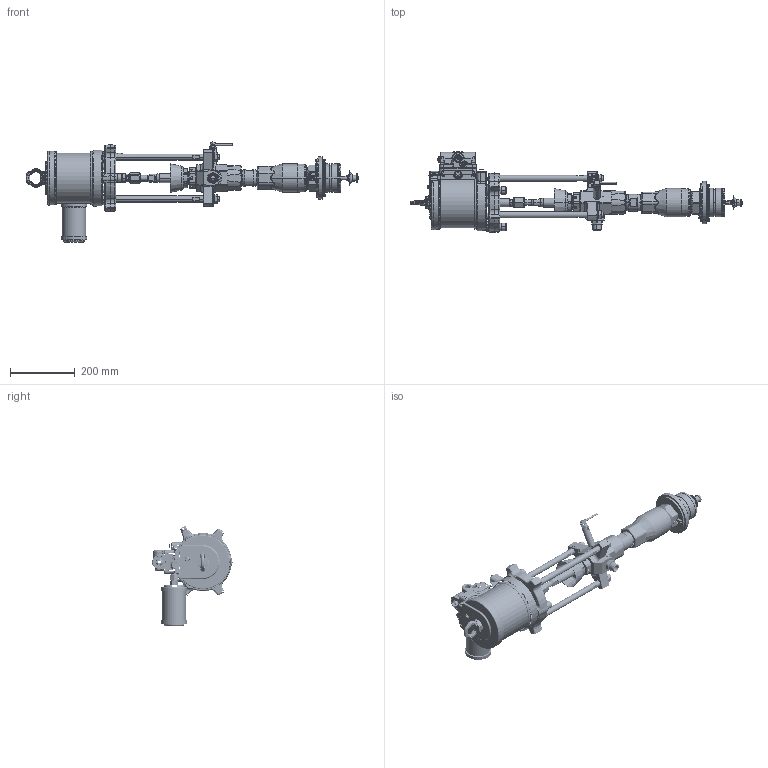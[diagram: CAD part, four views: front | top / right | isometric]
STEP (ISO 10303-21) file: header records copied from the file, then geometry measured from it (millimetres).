
FILE_DESCRIPTION((''),'2;1');
FILE_NAME('P20LCS-EN-F_PRT','2020-05-28T13:57:15',('qusrh3'),(''),'CREO PARAMETRIC BY PTC INC, 2019030','CREO PARAMETRIC BY PTC INC, 2019030','');
FILE_SCHEMA(('CONFIG_CONTROL_DESIGN'));
Products named in the file (1): P20LCS-EN-F_PRT
Bounding box: 1027.56 x 250.74 x 310.22 mm (x, y, z)
Surface area: 831028.2 mm2 (no closed solid volume)
Topology: 0 solids, 717 shells, 2903 faces, 12877 edges, 10377 vertices
Faces by surface type: plane 891, cylinder 663, cone 597, torus 393, bspline 346, sphere 13
Entity records: 164493 total; most frequent: CARTESIAN_POINT 70254, DIRECTION 18063, ORIENTED_EDGE 16787, EDGE_CURVE 12865, VERTEX_POINT 10377, AXIS2_PLACEMENT_3D 6674, VECTOR 4715, LINE 4715
